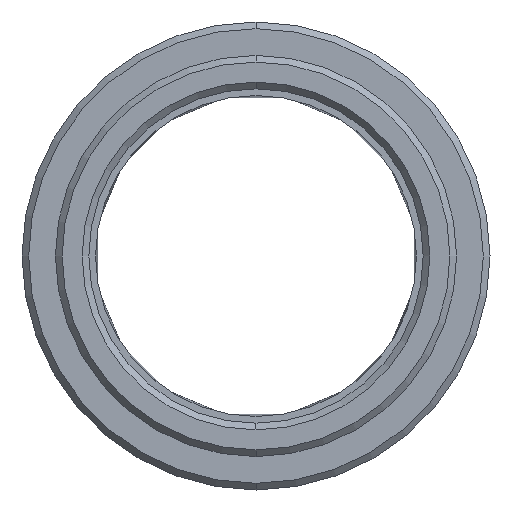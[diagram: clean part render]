
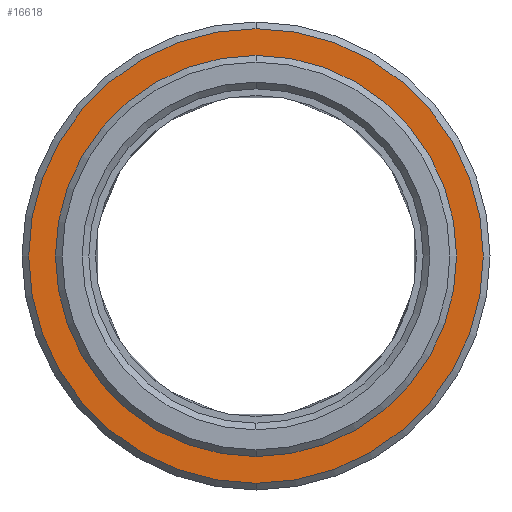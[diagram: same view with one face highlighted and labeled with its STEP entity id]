
A CAD part, left-side view. The second image highlights one B-rep face of the part: STEP entity #16618.
In plain terms, the highlighted planar face has unit normal (-1, 0, 0).
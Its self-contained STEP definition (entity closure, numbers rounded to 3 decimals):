
#6624=CARTESIAN_POINT('',(0.,0.,0.));
#6625=DIRECTION('',(1.,0.,0.));
#6626=DIRECTION('',(0.,0.,1.));
#6627=AXIS2_PLACEMENT_3D('',#6624,#6625,#6626);
#6629=CARTESIAN_POINT('',(0.,0.,0.));
#6630=DIRECTION('',(-1.,0.,0.));
#6631=DIRECTION('',(0.,0.,1.));
#6632=AXIS2_PLACEMENT_3D('',#6629,#6630,#6631);
#6634=CARTESIAN_POINT('',(0.,0.,
0.));
#6635=DIRECTION('',(1.,0.,0.));
#6636=DIRECTION('',(0.,0.,-1.));
#6637=AXIS2_PLACEMENT_3D('',#6634,#6635,#6636);
#6639=CARTESIAN_POINT('',(0.,0.,
0.));
#6640=DIRECTION('',(1.,0.,0.));
#6641=DIRECTION('',(0.,0.,1.));
#6642=AXIS2_PLACEMENT_3D('',#6639,#6640,#6641);
#13434=CARTESIAN_POINT('',(0.,0.,-17.));
#13435=CARTESIAN_POINT('',(0.,0.,17.));
#13436=VERTEX_POINT('',#13434);
#13437=VERTEX_POINT('',#13435);
#13964=CARTESIAN_POINT('',(0.,0.,15.));
#13965=CARTESIAN_POINT('',(0.,0.,-15.));
#13966=VERTEX_POINT('',#13964);
#13967=VERTEX_POINT('',#13965);
#16603=CARTESIAN_POINT('',(0.,0.,0.));
#16604=DIRECTION('',(1.,0.,0.));
#16605=DIRECTION('',(0.,0.,1.));
#16606=AXIS2_PLACEMENT_3D('',#16603,#16604,#16605);
#16607=PLANE('',#16606);
#16609=ORIENTED_EDGE('',*,*,#16608,.T.);
#16611=ORIENTED_EDGE('',*,*,#16610,.T.);
#16612=EDGE_LOOP('',(#16609,#16611));
#16613=FACE_OUTER_BOUND('',#16612,.F.);
#16614=ORIENTED_EDGE('',*,*,#16570,.F.);
#16615=ORIENTED_EDGE('',*,*,#16585,.T.);
#16616=EDGE_LOOP('',(#16614,#16615));
#16617=FACE_BOUND('',#16616,.F.);
#16618=ADVANCED_FACE('',(#16613,#16617),#16607,.F.);
#6628=CIRCLE('',#6627,15.);
#6633=CIRCLE('',#6632,15.);
#6638=CIRCLE('',#6637,17.);
#6643=CIRCLE('',#6642,17.);
#16570=EDGE_CURVE('',#13966,#13967,#6628,.T.);
#16585=EDGE_CURVE('',#13966,#13967,#6633,.T.);
#16608=EDGE_CURVE('',#13436,#13437,#6638,.T.);
#16610=EDGE_CURVE('',#13437,#13436,#6643,.T.);
